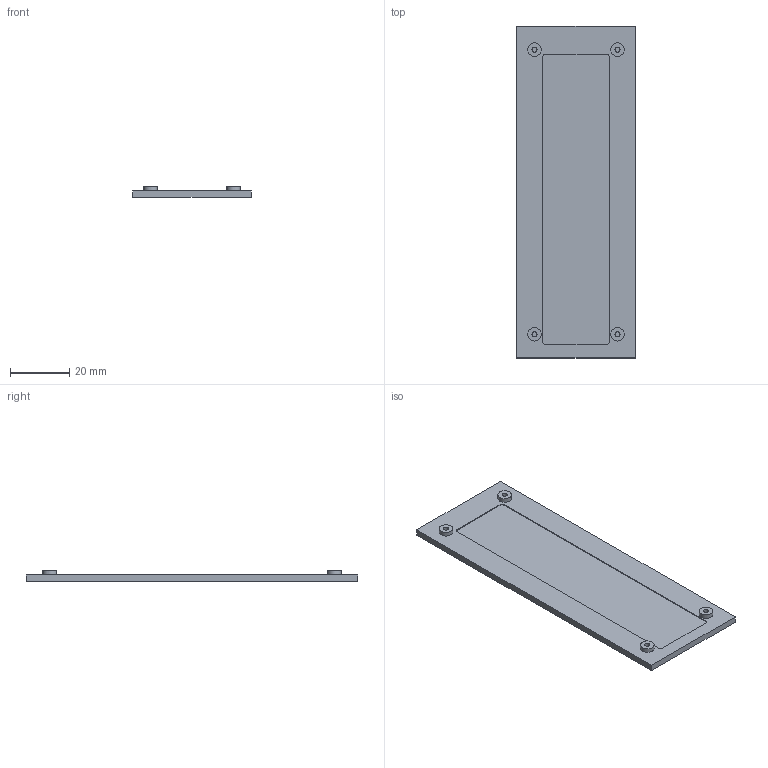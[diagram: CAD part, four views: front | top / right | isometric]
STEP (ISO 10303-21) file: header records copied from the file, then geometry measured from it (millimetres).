
FILE_DESCRIPTION(('Open CASCADE Model'),'2;1');
FILE_NAME('QF02_ANTENNA_BED_AND_NYLON_PILOT_TEST_BASE', '2026-09-15T14:22:29',('Author'),('Open CASCADE'), 'Open CASCADE STEP processor 7.9','build123d','Unknown');
FILE_SCHEMA(('AUTOMOTIVE_DESIGN { 1 0 10303 214 1 1 1 1 }'));
Length unit declared in the file: millimetre
Products named in the file (1): QF02_ANTENNA_BED_AND_NYLON_PILOT_TEST_BASE
Bounding box: 40 x 112 x 3.67 mm (x, y, z)
Volume: 9270.5 mm3; surface area: 9837.3 mm2
Topology: 1 solids, 1 shells, 31 faces, 60 edges, 40 vertices
Faces by surface type: plane 19, cylinder 12
Full cylindrical faces by diameter (mm): 1.7 x4, 4.6 x4
Entity records: 1592 total; most frequent: CARTESIAN_POINT 284, DIRECTION 256, LINE 124, VECTOR 124, ORIENTED_EDGE 120, PCURVE 120, DEFINITIONAL_REPRESENTATION 120, EDGE_CURVE 60
